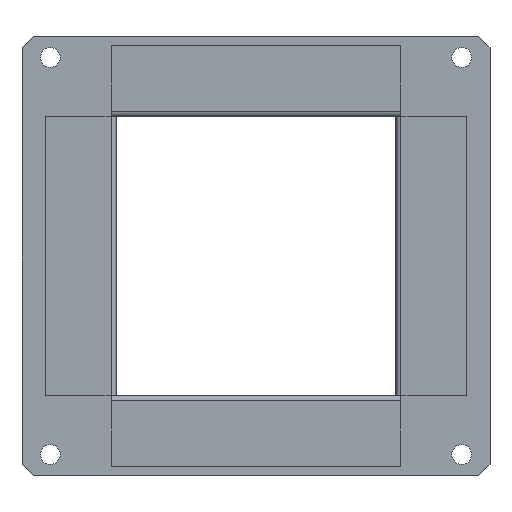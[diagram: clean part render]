
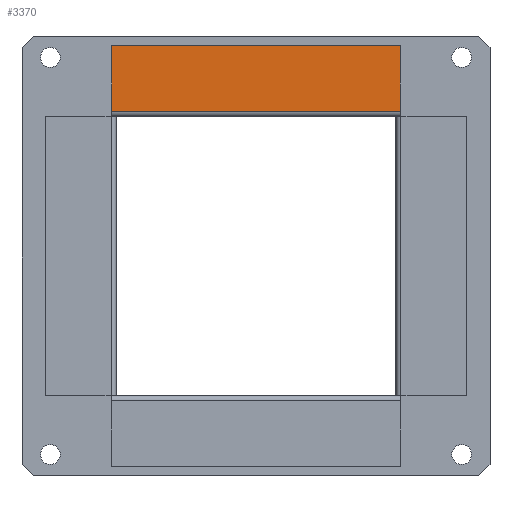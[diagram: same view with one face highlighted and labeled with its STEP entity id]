
A CAD part, top view. The second image highlights one B-rep face of the part: STEP entity #3370.
In plain terms, the highlighted planar face has unit normal (0, 0, 1) as drawn and (0, 0, -1) by its records, which use the part's own axes.
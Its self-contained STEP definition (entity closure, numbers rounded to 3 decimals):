
#139 = DIRECTION ( 'NONE',  ( 0., -1., 0. ) ) ;
#297 = AXIS2_PLACEMENT_3D ( 'NONE', #5454, #2915, #6489 ) ;
#535 = EDGE_LOOP ( 'NONE', ( #2806, #4319, #4453, #4162 ) ) ;
#728 = CARTESIAN_POINT ( 'NONE',  ( 50.8, 1.8, 0. ) ) ;
#881 = LINE ( 'NONE', #728, #6171 ) ;
#978 = DIRECTION ( 'NONE',  ( -1., 0., 0. ) ) ;
#1195 = FACE_OUTER_BOUND ( 'NONE', #535, .T. ) ;
#1292 = LINE ( 'NONE', #4546, #4341 ) ;
#1502 = CARTESIAN_POINT ( 'NONE',  ( 50.8, 0., 0. ) ) ;
#1566 = VERTEX_POINT ( 'NONE', #4720 ) ;
#1590 = EDGE_CURVE ( 'NONE', #3783, #3574, #5948, .T. ) ;
#1868 = EDGE_CURVE ( 'NONE', #1566, #1934, #2417, .T. ) ;
#1934 = VERTEX_POINT ( 'NONE', #6453 ) ;
#2167 = CARTESIAN_POINT ( 'NONE',  ( -50.8, 0., 0. ) ) ;
#2399 = PLANE ( 'NONE',  #297 ) ;
#2417 = LINE ( 'NONE', #1502, #6179 ) ;
#2806 = ORIENTED_EDGE ( 'NONE', *, *, #1590, .F. ) ;
#2915 = DIRECTION ( 'NONE',  ( 0., 0., -1. ) ) ;
#3370 = ADVANCED_FACE ( 'NONE', ( #1195 ), #2399, .T. ) ;
#3574 = VERTEX_POINT ( 'NONE', #5641 ) ;
#3783 = VERTEX_POINT ( 'NONE', #6074 ) ;
#3815 = EDGE_CURVE ( 'NONE', #1566, #3783, #1292, .T. ) ;
#4162 = ORIENTED_EDGE ( 'NONE', *, *, #4669, .T. ) ;
#4319 = ORIENTED_EDGE ( 'NONE', *, *, #3815, .F. ) ;
#4341 = VECTOR ( 'NONE', #978, 1000. ) ;
#4453 = ORIENTED_EDGE ( 'NONE', *, *, #1868, .T. ) ;
#4546 = CARTESIAN_POINT ( 'NONE',  ( 50.8, 25., 0. ) ) ;
#4568 = VECTOR ( 'NONE', #139, 1000. ) ;
#4669 = EDGE_CURVE ( 'NONE', #1934, #3574, #881, .T. ) ;
#4720 = CARTESIAN_POINT ( 'NONE',  ( 50.8, 25., 0. ) ) ;
#4806 = DIRECTION ( 'NONE',  ( -1., 0., 0. ) ) ;
#5080 = DIRECTION ( 'NONE',  ( 0., -1., 0. ) ) ;
#5454 = CARTESIAN_POINT ( 'NONE',  ( 50.8, 0., 0. ) ) ;
#5641 = CARTESIAN_POINT ( 'NONE',  ( -50.8, 1.8, 0. ) ) ;
#5948 = LINE ( 'NONE', #2167, #4568 ) ;
#6074 = CARTESIAN_POINT ( 'NONE',  ( -50.8, 25., 0. ) ) ;
#6171 = VECTOR ( 'NONE', #4806, 1000. ) ;
#6179 = VECTOR ( 'NONE', #5080, 1000. ) ;
#6453 = CARTESIAN_POINT ( 'NONE',  ( 50.8, 1.8, 0. ) ) ;
#6489 = DIRECTION ( 'NONE',  ( -1., 0., 0. ) ) ;
